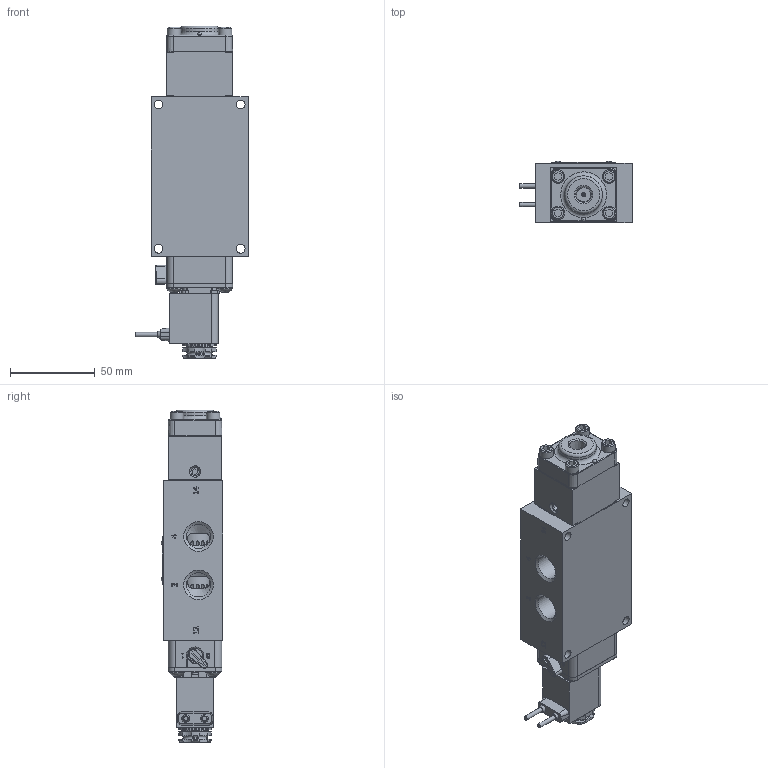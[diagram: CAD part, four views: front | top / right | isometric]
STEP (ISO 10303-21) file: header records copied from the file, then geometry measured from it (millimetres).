
FILE_DESCRIPTION(/* description */ (''),/* implementation_level */ '2;1');
FILE_NAME(/* name */ 'D:\Engineering\Product\valves\Assembly\standard\ESR\stp\ESR3MOCQ.stp',/* time_stamp */ '2022-06-17T23:49:51-04:00',/* author */ ('RMcKenna'),/* organization */ (''),/* preprocessor_version */ 'ST-DEVELOPER v18.1',/* originating_system */ 'Autodesk Inventor 2021',/* authorisation */ '');
FILE_SCHEMA (('AUTOMOTIVE_DESIGN { 1 0 10303 214 3 1 1 }'));
Products named in the file (1): Part139
Bounding box: 66.1 x 36.27 x 195.68 mm (x, y, z)
Volume: 238229.7 mm3; surface area: 78354.8 mm2
Topology: 1 solids, 33 shells, 1763 faces, 4341 edges, 2772 vertices
Faces by surface type: plane 805, cylinder 423, cone 286, torus 127, bspline 115, sphere 7
Full cylindrical faces by diameter (mm): 1.016 x1, 1.168 x10, 1.3 x1, 1.397 x1, 1.5 x1, 2.032 x4, 2.07 x2, 2.261 x2, 2.35 x4, 2.362 x2, 2.381 x2, 2.5 x1, 2.54 x2, 2.778 x2, 2.8 x1, 3 x4, 3.048 x3, 3.175 x2, 3.4 x1, 3.683 x11, 3.912 x3, 4.191 x2, 4.394 x1, 4.826 x8, 4.978 x2, 5.15 x4, 5.156 x16, 5.159 x4, 5.5 x1, 6.65 x1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
Entity records: 58749 total; most frequent: CARTESIAN_POINT 15358, ORIENTED_EDGE 8640, DIRECTION 8486, EDGE_CURVE 4320, AXIS2_PLACEMENT_3D 3127, VERTEX_POINT 2772, LINE 2232, VECTOR 2232
